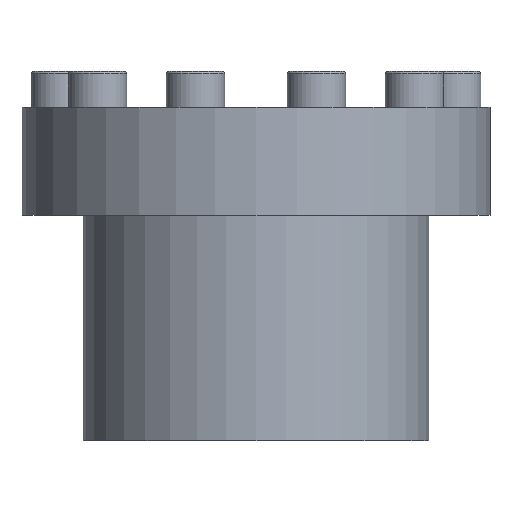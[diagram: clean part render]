
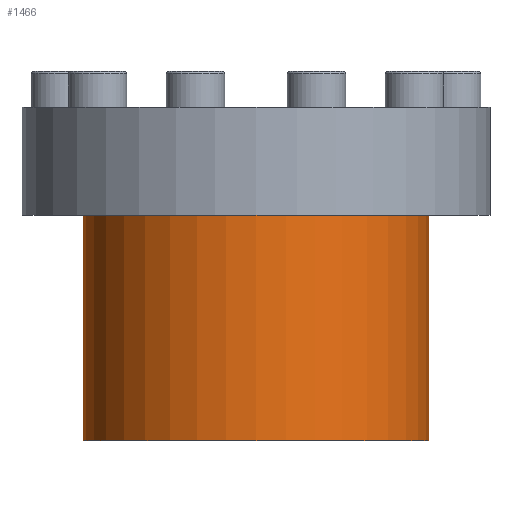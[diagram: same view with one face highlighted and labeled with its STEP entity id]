
A CAD part, front view. The second image highlights one B-rep face of the part: STEP entity #1466.
In plain terms, the highlighted cylindrical face has radius 38.4 mm (diameter 76.8 mm), a partial arc.
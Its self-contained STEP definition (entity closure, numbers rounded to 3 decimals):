
#54 = CARTESIAN_POINT ( 'NONE',  ( 0., 0., -74. ) ) ;
#63 = CARTESIAN_POINT ( 'NONE',  ( 38.4, 0., 0. ) ) ;
#180 = CARTESIAN_POINT ( 'NONE',  ( 38.4, 0., -74. ) ) ;
#347 = EDGE_CURVE ( 'NONE', #2721, #1011, #824, .T. ) ;
#348 = DIRECTION ( 'NONE',  ( 1., 0., 0. ) ) ;
#427 = ORIENTED_EDGE ( 'NONE', *, *, #2349, .F. ) ;
#502 = CARTESIAN_POINT ( 'NONE',  ( 38.4, 0., -24. ) ) ;
#732 = CARTESIAN_POINT ( 'NONE',  ( 0., 0., -24. ) ) ;
#793 = AXIS2_PLACEMENT_3D ( 'NONE', #54, #2051, #348 ) ;
#824 = LINE ( 'NONE', #63, #2799 ) ;
#874 = CARTESIAN_POINT ( 'NONE',  ( -38.4, 0., 0. ) ) ;
#908 = AXIS2_PLACEMENT_3D ( 'NONE', #732, #2452, #3358 ) ;
#935 = EDGE_LOOP ( 'NONE', ( #427, #2860, #3252, #2018 ) ) ;
#1011 = VERTEX_POINT ( 'NONE', #502 ) ;
#1065 = FACE_OUTER_BOUND ( 'NONE', #935, .T. ) ;
#1266 = CARTESIAN_POINT ( 'NONE',  ( 0., 0., 0. ) ) ;
#1352 = CARTESIAN_POINT ( 'NONE',  ( -38.4, 0., -74. ) ) ;
#1466 = ADVANCED_FACE ( 'NONE', ( #1065 ), #2968, .T. ) ;
#1473 = VERTEX_POINT ( 'NONE', #3585 ) ;
#1671 = CIRCLE ( 'NONE', #793, 38.4 ) ;
#1818 = VERTEX_POINT ( 'NONE', #1352 ) ;
#2018 = ORIENTED_EDGE ( 'NONE', *, *, #3479, .F. ) ;
#2051 = DIRECTION ( 'NONE',  ( 0., 0., 1. ) ) ;
#2149 = DIRECTION ( 'NONE',  ( 1., 0., 0. ) ) ;
#2349 = EDGE_CURVE ( 'NONE', #1818, #1473, #3006, .T. ) ;
#2452 = DIRECTION ( 'NONE',  ( 0., 0., 1. ) ) ;
#2598 = DIRECTION ( 'NONE',  ( 0., 0., 1. ) ) ;
#2624 = DIRECTION ( 'NONE',  ( 0., 0., 1. ) ) ;
#2626 = CIRCLE ( 'NONE', #908, 38.4 ) ;
#2721 = VERTEX_POINT ( 'NONE', #180 ) ;
#2799 = VECTOR ( 'NONE', #2624, 1000. ) ;
#2860 = ORIENTED_EDGE ( 'NONE', *, *, #3354, .T. ) ;
#2968 = CYLINDRICAL_SURFACE ( 'NONE', #3189, 38.4 ) ;
#3006 = LINE ( 'NONE', #874, #3462 ) ;
#3189 = AXIS2_PLACEMENT_3D ( 'NONE', #1266, #3308, #2149 ) ;
#3252 = ORIENTED_EDGE ( 'NONE', *, *, #347, .T. ) ;
#3308 = DIRECTION ( 'NONE',  ( 0., 0., 1. ) ) ;
#3354 = EDGE_CURVE ( 'NONE', #1818, #2721, #1671, .T. ) ;
#3358 = DIRECTION ( 'NONE',  ( 1., 0., 0. ) ) ;
#3462 = VECTOR ( 'NONE', #2598, 1000. ) ;
#3479 = EDGE_CURVE ( 'NONE', #1473, #1011, #2626, .T. ) ;
#3585 = CARTESIAN_POINT ( 'NONE',  ( -38.4, 0., -24. ) ) ;
